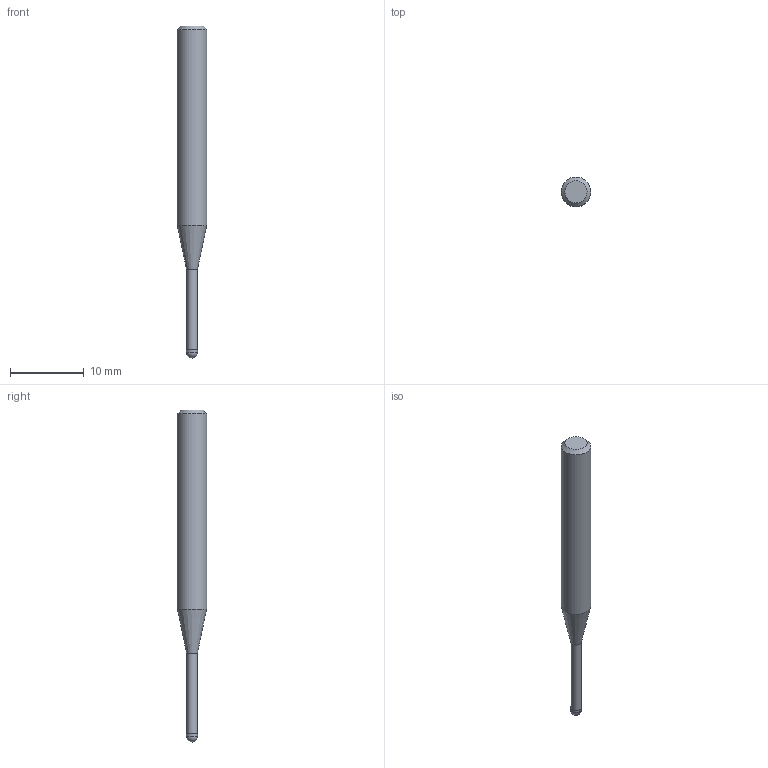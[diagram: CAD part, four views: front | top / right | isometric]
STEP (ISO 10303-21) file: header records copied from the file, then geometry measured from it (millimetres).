
FILE_DESCRIPTION((''),'2;1');
FILE_NAME('C:\Users\nsx150\AppData\Local\Temp\Mastercam 2021\AP8FW4WOPM\TEMP.step','2024-10-16T18:40:49',(''),(''),'STEP Write','Mastercam 2021 ... CNC Software, Inc.','');
FILE_SCHEMA(('AUTOMOTIVE_DESIGN'));
Length unit declared in the file: millimetre
Products named in the file (1): None
Bounding box: 4 x 4 x 45 mm (x, y, z)
Volume: 394.9 mm3; surface area: 458.6 mm2
Topology: 2 solids, 2 shells, 9 faces, 14 edges, 8 vertices
Faces by surface type: plane 3, cylinder 3, cone 2, sphere 1
Full cylindrical faces by diameter (mm): 1.45 x1, 1.5 x1, 4 x1
Entity records: 211 total; most frequent: DIRECTION 36, CARTESIAN_POINT 25, AXIS2_PLACEMENT_3D 18, ORIENTED_EDGE 14, EDGE_LOOP 14, STYLED_ITEM 12, ADVANCED_FACE 9, FACE_BOUND 8
